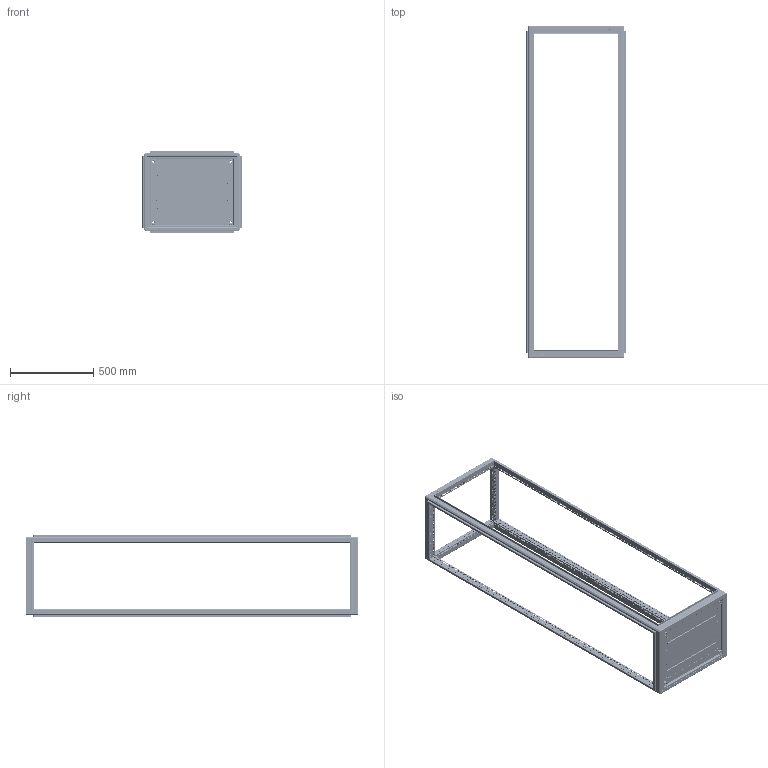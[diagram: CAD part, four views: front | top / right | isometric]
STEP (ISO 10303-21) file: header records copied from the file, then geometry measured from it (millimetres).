
FILE_DESCRIPTION(('STEP AP242'), '1');
FILE_NAME('ÊÑÊ.PRO.S.200.60.50 Êàðêàñ_ñåêöèîíèðîâàíèå', '', ('UNSPECIFIED'), ('UNSPECIFIED'), 'C3D Converter', 'C3D Toolkit', '');
FILE_SCHEMA(('AP242_MANAGED_MODEL_BASED_3D_ENGINEERING_MIM_LF { 1 0 10303 442 1 1 4 }'));
Length unit declared in the file: millimetre
Products named in the file (10): КСК.PRO.S.200.60.50; КСК.PRO.60.50; КСК.PRO.200; КСК.PRO.S.200; 2007.60.75; 2008.60.200
Assembly tree (17 placements, depth 2):
  КСК.PRO.S.200.60.50
    КСК.PRO.60.50
    КСК.PRO.200
    КСК.PRO.60.50
    КСК.PRO.200
    КСК.PRO.S.200
    КСК.PRO.S.200
    2007.60.75  x2
    2008.60.200
    (unnamed)  x8
Bounding box: 597 x 1997 x 497 mm (x, y, z)
Volume: 3181054.1 mm3; surface area: 4105126 mm2
Topology: 17 solids, 17 shells, 8209 faces, 23227 edges, 15245 vertices
Faces by surface type: plane 5807, cylinder 1984, cone 314, bspline 48, sphere 32, torus 24
Full cylindrical faces by diameter (mm): 3.242 x56, 4.134 x158, 4.5 x1240, 4.8 x8, 6 x56, 7 x158, 10.106 x4, 13.835 x4, 14 x4, 21.545 x4
Entity records: 277440 total; most frequent: CARTESIAN_POINT 46022, ORIENTED_EDGE 41134, DIRECTION 40202, EDGE_CURVE 20567, LINE 16520, VECTOR 16520, EDGE_LOOP 15164, VERTEX_POINT 14731
